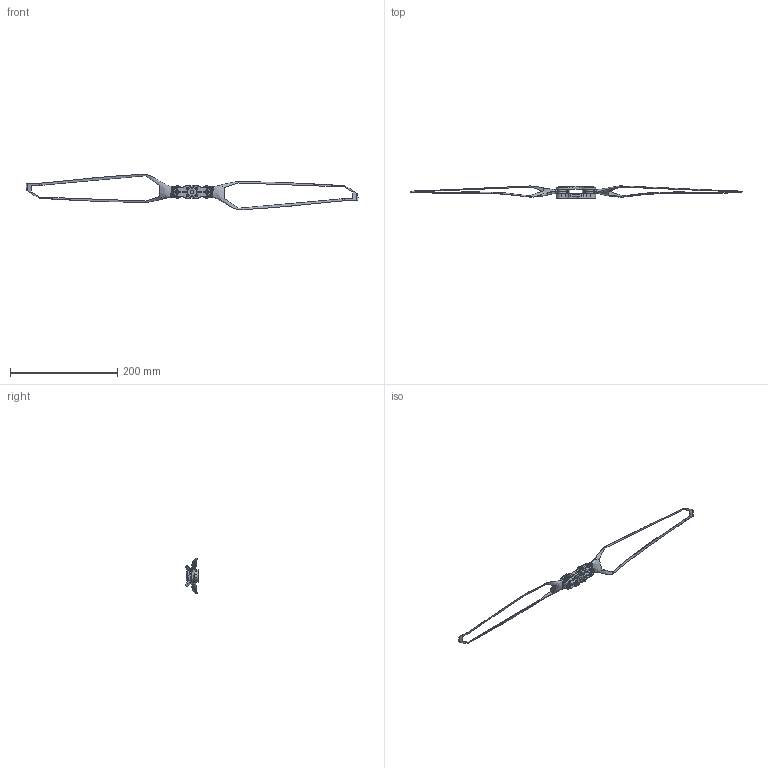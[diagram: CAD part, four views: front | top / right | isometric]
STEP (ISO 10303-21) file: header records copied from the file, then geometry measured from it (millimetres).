
FILE_DESCRIPTION (( 'STEP AP203' ), '1' );
FILE_NAME ('MF2407.STEP', '2025-02-11T04:12:55', ( '' ), ( '' ), 'SwSTEP 2.0', 'SolidWorks 2022', '' );
FILE_SCHEMA (( 'CONFIG_CONTROL_DESIGN' ));
Length unit declared in the file: millimetre
Products named in the file (4): MF24外发桨叶; MF2407; BJJ02060440-24寸桨夹下板-A; BJJ02060439-24寸桨夹上板-A
Assembly tree (4 placements, depth 2):
  MF2407
    MF24外发桨叶  x2
    BJJ02060439-24寸桨夹上板-A
    BJJ02060440-24寸桨夹下板-A
Bounding box: 619.11 x 22.48 x 66.25 mm (x, y, z)
Volume: 32044.8 mm3; surface area: 28113.1 mm2
Topology: 4 solids, 4 shells, 545 faces, 1418 edges, 900 vertices
Faces by surface type: cylinder 228, plane 161, bspline 96, cone 60
Entity records: 24490 total; most frequent: CARTESIAN_POINT 12505, DIRECTION 2461, ORIENTED_EDGE 2430, EDGE_CURVE 1215, AXIS2_PLACEMENT_3D 956, VERTEX_POINT 777, LINE 549, VECTOR 549
